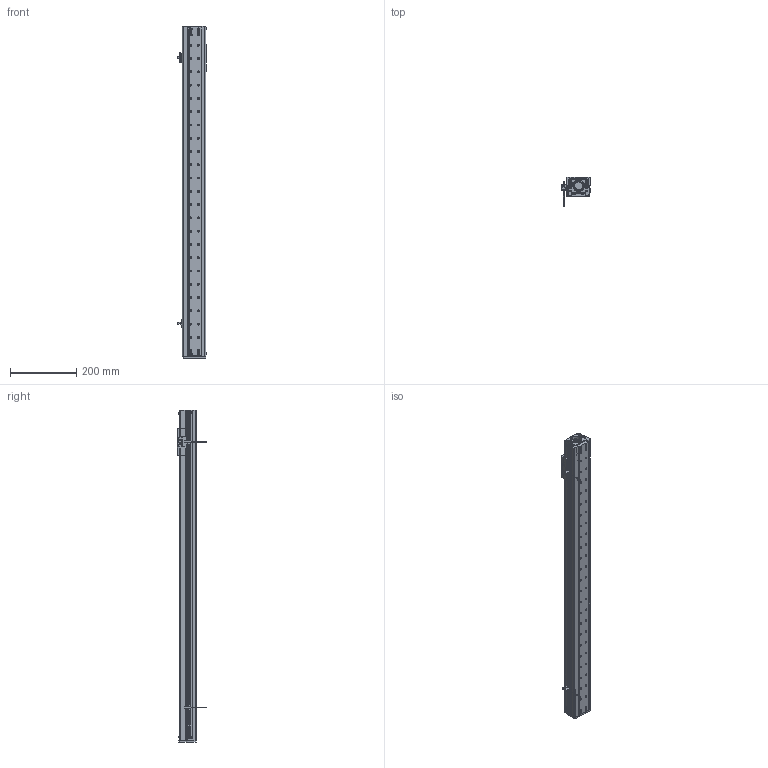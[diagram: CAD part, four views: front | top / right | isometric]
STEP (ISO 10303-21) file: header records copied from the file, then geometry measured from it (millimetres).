
FILE_DESCRIPTION (( 'STEP AP203' ), '1' );
FILE_NAME ('CTHM6-S800.STEP', '2019-12-18T01:59:05', ( '微软用户' ), ( '微软中国' ), 'SwSTEP 2.0', 'SolidWorks 2017', '' );
FILE_SCHEMA (( 'CONFIG_CONTROL_DESIGN' ));
Length unit declared in the file: millimetre
Products named in the file (17): M3-L6囀鞠褒蹟佪; 支持侧轴承座(带磁条); EE-SX672-BR; 遣喳蝶15x12x8; 滅袉蝶; MG60裔啣; 耜結啣(湍羞); LMW15奻窅; DG60傷裔(祥結傷裔); 蟀諉釱(裔啣党蜊); M4-L10囀鞠褒蹟佪; LMW15AA; 侧挡板2(带磁条修改厚度); 固定侧轴承座(自制轴承座); M3-L6半圆头内六角螺丝; 羲壽え; CTHM6-S800
Assembly tree (29 placements, depth 2):
  CTHM6-S800
    LMW15奻窅
    蟀諉釱(裔啣党蜊)
    LMW15AA
    固定侧轴承座(自制轴承座)
    羲壽え
    支持侧轴承座(带磁条)
    遣喳蝶15x12x8  x2
    MG60裔啣
    耜結啣(湍羞)
    DG60傷裔(祥結傷裔)
    M4-L10囀鞠褒蹟佪  x2
    侧挡板2(带磁条修改厚度)
    M3-L6半圆头内六角螺丝  x8
    M3-L6囀鞠褒蹟佪  x4
    EE-SX672-BR  x2
    滅袉蝶
Bounding box: 86.7 x 87.8 x 1000 mm (x, y, z)
Volume: 959556.4 mm3; surface area: 674574.2 mm2
Topology: 33 solids, 33 shells, 2093 faces, 5322 edges, 3288 vertices
Faces by surface type: plane 808, cylinder 769, cone 402, torus 88, bspline 26
Entity records: 57372 total; most frequent: CARTESIAN_POINT 11783, DIRECTION 9470, ORIENTED_EDGE 8860, EDGE_CURVE 4430, AXIS2_PLACEMENT_3D 3576, VERTEX_POINT 2789, VECTOR 2318, LINE 2318
